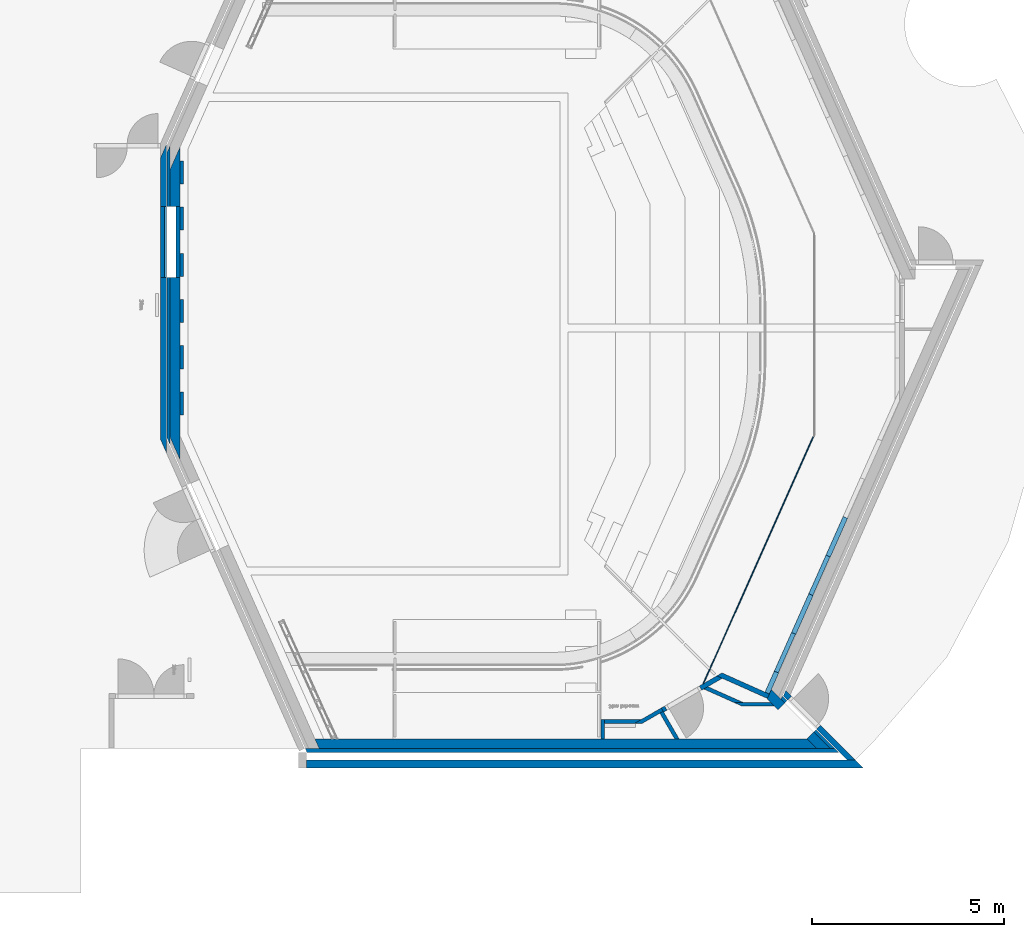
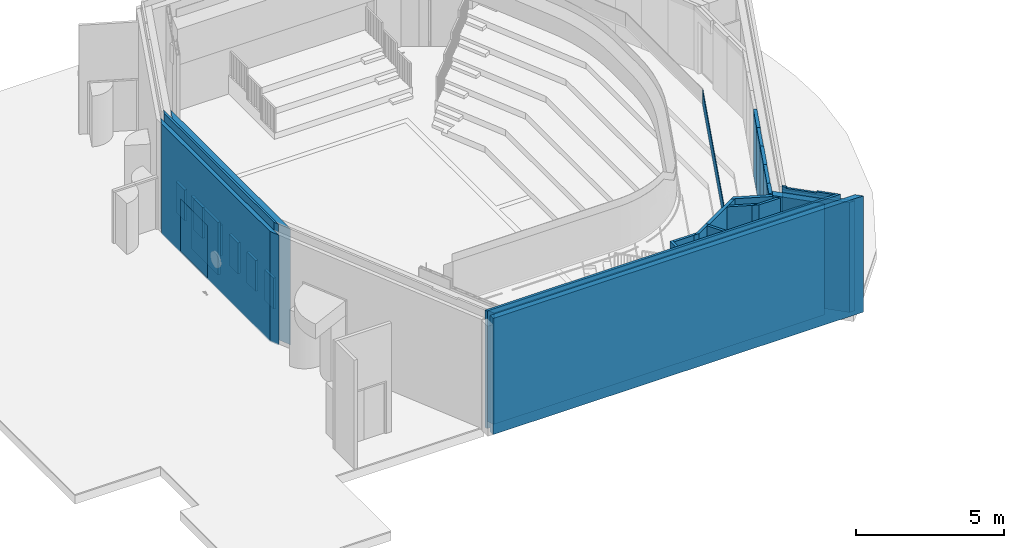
# One storey, part 8 of 19: 31 walls, 9 openings.
"""IFC2X3 building model written with IfcOpenShell, lengths in millimetres."""

from ifc_helpers import new_model, entity, si_unit, converted_unit, derived_unit, direction, frame, frame_2d, origin, place, context, subcontext, project, spatial, polyline, rectangle, outline, extrude, clip, halfspace, material, layer, layer_set, layer_usage, type_object, element, save


model = new_model("IFC2X3")

# Units and contexts
model_context = context("Model", 3, precision=0.01, world=origin(), true_north=direction((6.123031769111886e-17, 1.0)))
body_context = subcontext(model_context, "Body", "Model", "MODEL_VIEW")
ifc_project = project(units=[si_unit("LENGTHUNIT", "METRE", prefix="MILLI"), si_unit("AREAUNIT", "SQUARE_METRE"), si_unit("VOLUMEUNIT", "CUBIC_METRE"), converted_unit("PLANEANGLEUNIT", "DEGREE", entity("IfcRatioMeasure", 0.017453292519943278), si_unit("PLANEANGLEUNIT", "RADIAN"), dimensions=[0, 0, 0, 0, 0, 0, 0]), si_unit("MASSUNIT", "GRAM", prefix="KILO"), derived_unit("MASSDENSITYUNIT", [(si_unit("MASSUNIT", "GRAM", prefix="KILO"), 1), (si_unit("LENGTHUNIT", "METRE"), -3)]), derived_unit("MOMENTOFINERTIAUNIT", [(si_unit("LENGTHUNIT", "METRE"), 4)]), si_unit("TIMEUNIT", "SECOND"), si_unit("FREQUENCYUNIT", "HERTZ"), si_unit("THERMODYNAMICTEMPERATUREUNIT", "DEGREE_CELSIUS"), derived_unit("THERMALTRANSMITTANCEUNIT", [(si_unit("MASSUNIT", "GRAM", prefix="KILO"), 1), (si_unit("THERMODYNAMICTEMPERATUREUNIT", "KELVIN"), -1), (si_unit("TIMEUNIT", "SECOND"), -3)]), derived_unit("VOLUMETRICFLOWRATEUNIT", [(si_unit("LENGTHUNIT", "METRE"), 3), (si_unit("TIMEUNIT", "SECOND"), -1)]), derived_unit("MASSFLOWRATEUNIT", [(si_unit("MASSUNIT", "GRAM", prefix="KILO"), 1), (si_unit("TIMEUNIT", "SECOND"), -1)]), derived_unit("ROTATIONALFREQUENCYUNIT", [(si_unit("TIMEUNIT", "SECOND"), -1)]), si_unit("ELECTRICCURRENTUNIT", "AMPERE"), si_unit("ELECTRICVOLTAGEUNIT", "VOLT"), si_unit("POWERUNIT", "WATT"), si_unit("FORCEUNIT", "NEWTON", prefix="KILO"), si_unit("ILLUMINANCEUNIT", "LUX"), si_unit("LUMINOUSFLUXUNIT", "LUMEN"), si_unit("LUMINOUSINTENSITYUNIT", "CANDELA"), derived_unit("USERDEFINED", [(si_unit("MASSUNIT", "GRAM", prefix="KILO"), -1), (si_unit("LENGTHUNIT", "METRE"), -2), (si_unit("TIMEUNIT", "SECOND"), 3), (si_unit("LUMINOUSFLUXUNIT", "LUMEN"), 1)]), derived_unit("SOUNDPOWERUNIT", [(si_unit("MASSUNIT", "GRAM", prefix="KILO"), 1), (si_unit("LENGTHUNIT", "METRE"), 2), (si_unit("TIMEUNIT", "SECOND"), -3)]), derived_unit("SOUNDPRESSUREUNIT", [(si_unit("MASSUNIT", "GRAM", prefix="KILO"), 1), (si_unit("LENGTHUNIT", "METRE"), -1), (si_unit("TIMEUNIT", "SECOND"), -2)]), derived_unit("LINEARVELOCITYUNIT", [(si_unit("LENGTHUNIT", "METRE"), 1), (si_unit("TIMEUNIT", "SECOND"), -1)]), si_unit("PRESSUREUNIT", "PASCAL"), derived_unit("USERDEFINED", [(si_unit("LENGTHUNIT", "METRE"), -2), (si_unit("MASSUNIT", "GRAM", prefix="KILO"), 1), (si_unit("TIMEUNIT", "SECOND"), -2)]), derived_unit("LINEARFORCEUNIT", [(si_unit("MASSUNIT", "GRAM", prefix="KILO"), 1), (si_unit("LENGTHUNIT", "METRE"), 1), (si_unit("TIMEUNIT", "SECOND"), -2), (si_unit("LENGTHUNIT", "METRE"), -1)]), derived_unit("PLANARFORCEUNIT", [(si_unit("MASSUNIT", "GRAM", prefix="KILO"), 1), (si_unit("LENGTHUNIT", "METRE"), 1), (si_unit("TIMEUNIT", "SECOND"), -2), (si_unit("LENGTHUNIT", "METRE"), -2)])], contexts=[model_context])

# Site, building, storey
site_placement = place(None, frame((-10000.0, -10000.0, 0.0)))
site = spatial("IfcSite", under=ifc_project, at=site_placement, Name="Default", CompositionType="ELEMENT")
building_placement = place(site_placement, origin())
building = spatial("IfcBuilding", under=site, at=building_placement, CompositionType="ELEMENT")
storey_placement = place(building_placement, frame((0.0, 0.0, 4200.0)))
storey = spatial("IfcBuildingStorey", under=building, at=storey_placement, Name="01 1e verdieping", CompositionType="ELEMENT", Elevation=4200.000000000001)

# Wall, opening
ifc_material_1 = material(Name="NLRS_beton ihwg")
ifc_layer_1 = layer(ifc_material_1, 250.00000000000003)
ifc_layer_set_1 = layer_set([ifc_layer_1], Name="Basic Wall:NLRS_21_WA_beton 250mm_ags")
ifc_layer_usage_1 = layer_usage(ifc_layer_set_1, "AXIS2", "NEGATIVE", 125.00000000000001)
wall_type_1 = type_object("IfcWallType", Name="Basic Wall:NLRS_21_WA_beton 250mm_ags", PredefinedType="STANDARD", material=ifc_layer_set_1)
wall_1_placement = place(storey_placement, frame((25650.0, 43486.43397011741, -50.0), z_axis=(0.0, 0.0, 1.0), x_axis=(0.0, -1.0, 0.0)))
wall_1 = element("IfcWallStandardCase", 1, at=wall_1_placement, inside=storey, type_object=wall_type_1, material=ifc_layer_usage_1, Name="Basic Wall:NLRS_21_WA_beton 250mm_ags", ObjectType="Basic Wall:NLRS_21_WA_beton 250mm_ags", context=body_context, shape_type="SweptSolid", body=[
    extrude(outline(polyline([(561.5091934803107, -125.0), (7533.19161774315, -125.0), (8094.700811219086, 125.0), (7480.052477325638, 125.0), (0.0, 125.0), (561.5091934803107, -125.0)])), origin(), (0.0, 0.0, 1.0), 4800.0),
])
opening_1_placement = place(wall_1_placement, origin())
element("IfcOpeningElement", 2, at=opening_1_placement, cuts=wall_1, Name="Basic Wall:NLRS_21_WA_beton 250mm_ags", ObjectType="Opening", context=body_context, shape_type="SweptSolid", body=[
    extrude(rectangle(XDim=2220.0, YDim=1840.0000000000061, at=frame_2d((0.0, -4.320099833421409e-12), x_axis=(1.0, 0.0))), frame((2456.433970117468, -125.0, 1110.0), z_axis=(0.0, 1.0, 0.0), x_axis=(0.0, 0.0, -1.0)), (0.0, 0.0, 1.0), 250.0000000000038),
])

# Wall
ifc_layer_usage_2 = layer_usage(ifc_layer_set_1, "AXIS2", "NEGATIVE", 125.00000000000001)
wall_2_placement = place(storey_placement, frame((29284.01712027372, 28000.0, -50.0)))
element("IfcWallStandardCase", 3, at=wall_2_placement, inside=storey, type_object=wall_type_1, material=ifc_layer_usage_2, Name="Basic Wall:NLRS_21_WA_beton 250mm_ags", ObjectType="Basic Wall:NLRS_21_WA_beton 250mm_ags", context=body_context, shape_type="SweptSolid", body=[
    extrude(outline(polyline([(13032.486941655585, -125.0), (12782.486941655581, 125.0), (0.0, 125.0), (111.30717132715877, -125.0), (13032.486941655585, -125.0)])), origin(), (0.0, 0.0, 1.0), 4599.999999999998),
])

# Wall, opening
ifc_layer_usage_3 = layer_usage(ifc_layer_set_1, "AXIS2", "NEGATIVE", 125.00000000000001)
wall_3_placement = place(storey_placement, frame((41052.39703665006, 29315.883720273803, -50.0), z_axis=(0.0, 0.0, 1.0), x_axis=(0.7071067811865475, -0.7071067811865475, 0.0)))
wall_3 = element("IfcWallStandardCase", 4, at=wall_3_placement, inside=storey, type_object=wall_type_1, material=ifc_layer_usage_3, Name="Basic Wall:NLRS_21_WA_beton 250mm_ags", ObjectType="Basic Wall:NLRS_21_WA_beton 250mm_ags", context=body_context, shape_type="SweptSolid", body=[
    extrude(outline(polyline([(95.96600875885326, -125.0), (1559.1639088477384, -125.0), (1912.7172994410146, -125.0), (2162.7172994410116, 125.0), (267.78624840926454, 125.0), (0.0, 125.0), (95.96600875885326, -125.0)])), origin(), (0.0, 0.0, 1.0), 4599.999999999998),
])
opening_2_placement = place(wall_3_placement, origin())
element("IfcOpeningElement", 5, at=opening_2_placement, cuts=wall_3, Name="Basic Wall:NLRS_21_WA_beton 250mm_ags", ObjectType="Opening", context=body_context, shape_type="SweptSolid", body=[
    extrude(rectangle(XDim=2220.0, YDim=1065.000000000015, at=frame_2d((0.0, 3.0127011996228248e-12), x_axis=(1.0, 0.0))), frame((1026.6639088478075, -125.0, 1110.0), z_axis=(0.0, 1.0, 0.0), x_axis=(0.0, 0.0, -1.0)), (0.0, 0.0, 1.0), 249.99999999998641),
])

ifc_material_2 = material(Name="NLRS_kalkzandsteen")
ifc_layer_2 = layer(ifc_material_2, 150.0)
ifc_layer_set_2 = layer_set([ifc_layer_2], Name="Basic Wall:NLRS_22_WA_kalkzandsteen 150mm_ags")
ifc_layer_usage_4 = layer_usage(ifc_layer_set_2, "AXIS2", "NEGATIVE", 75.0)
wall_type_2 = type_object("IfcWallType", Name="Basic Wall:NLRS_22_WA_kalkzandsteen 150mm_ags", PredefinedType="STANDARD", material=ifc_layer_set_2)
wall_4_placement = place(storey_placement, frame((25350.0, 43560.82876670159, -50.0), z_axis=(0.0, 0.0, 1.0), x_axis=(0.0, -1.0, 0.0)))
wall_4 = element("IfcWallStandardCase", 6, at=wall_4_placement, inside=storey, type_object=wall_type_2, material=ifc_layer_usage_4, Name="Basic Wall:NLRS_22_WA_kalkzandsteen 150mm_ags", ObjectType="Basic Wall:NLRS_22_WA_kalkzandsteen 150mm_ags", context=body_context, shape_type="SweptSolid", body=[
    extrude(outline(polyline([(7660.725554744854, -75.0), (7997.631070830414, 75.0), (7628.84207049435, 75.0), (0.0, 75.0), (336.9055160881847, -75.0), (7660.725554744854, -75.0)])), origin(), (0.0, 0.0, 1.0), 4549.999999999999),
])
opening_3_placement = place(wall_4_placement, origin())
element("IfcOpeningElement", 7, at=opening_3_placement, cuts=wall_4, Name="Basic Wall:NLRS_22_WA_kalkzandsteen 150mm_ags", ObjectType="Opening", context=body_context, shape_type="SweptSolid", body=[
    extrude(rectangle(XDim=2170.0, YDim=1840.0000000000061, at=frame_2d((-2.2737367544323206e-13, -4.320099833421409e-12), x_axis=(1.0, 0.0))), frame((2530.8287667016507, -75.0, 1135.0), z_axis=(0.0, 1.0, 0.0), x_axis=(0.0, 0.0, -1.0)), (0.0, 0.0, 1.0), 150.00000000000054),
])

# Wall, openings
ifc_layer_usage_5 = layer_usage(ifc_layer_set_2, "AXIS2", "NEGATIVE", 75.0)
wall_5_placement = place(storey_placement, frame((41462.84778920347, 29329.69703643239, -50.0), z_axis=(0.0, 0.0, 1.0), x_axis=(0.7071067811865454, -0.7071067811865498, 0.0)))
wall_5 = element("IfcWallStandardCase", 8, at=wall_5_placement, inside=storey, type_object=wall_type_2, material=ifc_layer_usage_5, Name="Basic Wall:NLRS_22_WA_kalkzandsteen 150mm_ags", ObjectType="Basic Wall:NLRS_22_WA_kalkzandsteen 150mm_ags", context=body_context, shape_type="SweptSolid", body=[
    extrude(outline(polyline([(57.59976888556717, -75.0), (2406.516347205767, -75.0), (2556.516347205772, 75.0), (160.67897614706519, 75.0), (0.0, 75.0), (57.59976888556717, -75.0)])), origin(), (0.0, 0.0, 1.0), 4549.999999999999),
])
opening_4_placement = place(wall_5_placement, origin())
element("IfcOpeningElement", 9, at=opening_4_placement, cuts=wall_5, Name="Basic Wall:NLRS_22_WA_kalkzandsteen 150mm_ags", ObjectType="Opening", context=body_context, shape_type="SweptSolid", body=[
    extrude(rectangle(XDim=2220.0, YDim=1065.0000000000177, at=frame_2d((0.0, 4.604316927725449e-12), x_axis=(1.0, 0.0))), frame((746.1988879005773, -75.0, 1110.0), z_axis=(0.0, 1.0, 0.0), x_axis=(0.0, 0.0, -1.0)), (0.0, 0.0, 1.0), 150.00000000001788),
])
opening_5_placement = place(wall_5_placement, origin())
element("IfcOpeningElement", 10, at=opening_5_placement, cuts=wall_5, Name="Basic Wall:NLRS_22_WA_kalkzandsteen 150mm_ags", ObjectType="Opening", context=body_context, shape_type="SweptSolid", body=[
    extrude(rectangle(XDim=2220.0, YDim=1065.0000000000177, at=frame_2d((-1.1368683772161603e-12, 4.604316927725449e-12), x_axis=(1.0, 0.0))), frame((746.1988879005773, -75.0, 5910.0), z_axis=(0.0, 1.0, 0.0), x_axis=(0.0, 0.0, -1.0)), (0.0, 0.0, 1.0), 150.00000000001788),
])

# Walls
ifc_material_3 = material(Name="NLRS_metselwerk schoonwerk")
ifc_layer_3 = layer(ifc_material_3, 210.0)
ifc_layer_set_3 = layer_set([ifc_layer_3], Name="Basic Wall:NLRS_21_WA_metselwerk 210mm_ags")
ifc_layer_usage_6 = layer_usage(ifc_layer_set_3, "AXIS2", "NEGATIVE", 105.0)
wall_type_3 = type_object("IfcWallType", Name="Basic Wall:NLRS_21_WA_metselwerk 210mm_ags", PredefinedType="STANDARD", material=ifc_layer_set_3)
wall_6_placement = place(storey_placement, frame((29068.08237584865, 27470.0, -50.0)))
element("IfcWallStandardCase", 11, at=wall_6_placement, inside=storey, type_object=wall_type_3, material=ifc_layer_usage_6, Name="Basic Wall:NLRS_21_WA_metselwerk 210mm_ags", ObjectType="Basic Wall:NLRS_21_WA_metselwerk 210mm_ags", context=body_context, shape_type="SweptSolid", body=[
    extrude(outline(polyline([(14465.52846726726, -105.0), (14255.528467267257, 105.0), (14043.396432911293, 105.0), (0.0, 105.0), (0.0, -105.0), (14465.52846726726, -105.0)])), origin(), (0.0, 0.0, 1.0), 4800.0),
])
ifc_material_4 = material(Name="NLRS_MDF")
ifc_layer_4 = layer(ifc_material_4, 12.5)
ifc_material_5 = material(Name="NLRS_gipsplaat")
ifc_layer_5 = layer(ifc_material_5, 12.5)
ifc_material_6 = material(Name="NLRS_aluminium C-profielen met isolatie")
ifc_layer_6 = layer(ifc_material_6, 75.0)
ifc_layer_7 = layer(ifc_material_5, 12.5)
ifc_layer_8 = layer(ifc_material_5, 12.5)
ifc_layer_set_4 = layer_set([ifc_layer_4, ifc_layer_5, ifc_layer_6, ifc_layer_7, ifc_layer_8], Name="Basic Wall:NLRS_22_WA_ms-wand mdf gips iso gips gips 125mm 25-75-25_ags")
ifc_layer_usage_7 = layer_usage(ifc_layer_set_4, "AXIS2", "POSITIVE", -62.50000000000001)
wall_type_4 = type_object("IfcWallType", Name="Basic Wall:NLRS_22_WA_ms-wand mdf gips iso gips gips 125mm 25-75-25_ags", PredefinedType="STANDARD", material=ifc_layer_set_4)
wall_7_placement = place(storey_placement, frame((41064.45000275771, 29232.81999383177, 0.0), z_axis=(0.0, 0.0, 1.0), x_axis=(-0.9135931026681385, 0.406629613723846, 0.0)))
element("IfcWallStandardCase", 12, at=wall_7_placement, inside=storey, type_object=wall_type_4, material=ifc_layer_usage_7, Name="Basic Wall:NLRS_22_WA_ms-wand mdf gips iso gips gips 125mm 25-75-25_ags", ObjectType="Basic Wall:NLRS_22_WA_ms-wand mdf gips iso gips gips 125mm 25-75-25_ags", context=body_context, shape_type="SweptSolid", body=[
    extrude(outline(polyline([(1348.0282435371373, -62.499999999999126), (1438.8684360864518, 62.50000000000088), (1284.346785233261, 62.50000000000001), (0.0, 62.50000000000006), (0.0, -62.50000000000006), (1348.0282435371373, -62.499999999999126)])), origin(), (0.0, 0.0, 1.0), 4499.999999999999),
])

# Wall, opening
ifc_layer_usage_8 = layer_usage(ifc_layer_set_4, "AXIS2", "POSITIVE", -62.50000000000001)
wall_8_placement = place(storey_placement, frame((39834.41528747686, 29752.100449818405, 0.0), z_axis=(0.0, 0.0, 1.0), x_axis=(-0.8660254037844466, -0.49999999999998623, 0.0)))
wall_8 = element("IfcWallStandardCase", 13, at=wall_8_placement, inside=storey, type_object=wall_type_4, material=ifc_layer_usage_8, Name="Basic Wall:NLRS_22_WA_ms-wand mdf gips iso gips gips 125mm 25-75-25_ags", ObjectType="Basic Wall:NLRS_22_WA_ms-wand mdf gips iso gips gips 125mm 25-75-25_ags", context=body_context, shape_type="SweptSolid", body=[
    extrude(outline(polyline([(90.84019254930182, -62.49999999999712), (1755.9171632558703, -62.499999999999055), (1755.9171632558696, 62.50000000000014), (556.2779430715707, 62.499999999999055), (432.6606223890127, 62.499999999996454), (0.0, 62.49999999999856), (90.84019254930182, -62.49999999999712)])), origin(), (0.0, 0.0, 1.0), 4499.999999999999),
])
opening_6_placement = place(wall_8_placement, origin())
element("IfcOpeningElement", 14, at=opening_6_placement, cuts=wall_8, Name="Basic Wall:NLRS_22_WA_ms-wand mdf gips iso gips gips 125mm 25-75-25_ags", ObjectType="Opening", context=body_context, shape_type="SweptSolid", body=[
    extrude(rectangle(XDim=2170.0, YDim=1040.0000000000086, at=frame_2d((-2.8990143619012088e-12, 2.2737367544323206e-13), x_axis=(0.0, 1.0))), frame((1135.917163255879, -214.89999999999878, 1085.0), z_axis=(0.0, 1.0, 0.0), x_axis=(-1.0, 0.0, 0.0)), (0.0, 0.0, 1.0), 429.8000000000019),
])

# Walls
ifc_layer_9 = layer(ifc_material_4, 12.5)
ifc_layer_10 = layer(ifc_material_5, 12.5)
ifc_layer_11 = layer(ifc_material_6, 75.0)
ifc_layer_set_5 = layer_set([ifc_layer_9, ifc_layer_10, ifc_layer_11], Name="Basic Wall:NLRS_22_WA_ms-wand mdf gips iso 100mm 25-75_ags")
ifc_layer_usage_9 = layer_usage(ifc_layer_set_5, "AXIS2", "NEGATIVE", 50.0)
wall_type_5 = type_object("IfcWallType", Name="Basic Wall:NLRS_22_WA_ms-wand mdf gips iso 100mm 25-75_ags", PredefinedType="STANDARD", material=ifc_layer_set_5)
wall_9_placement = place(storey_placement, frame((37609.01496135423, 28481.69872920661, 0.0), z_axis=(0.0, 0.0, 1.0), x_axis=(0.8660254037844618, 0.49999999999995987, 0.0)))
element("IfcWallStandardCase", 15, at=wall_9_placement, inside=storey, type_object=wall_type_5, material=ifc_layer_usage_9, Name="Basic Wall:NLRS_22_WA_ms-wand mdf gips iso 100mm 25-75_ags", ObjectType="Basic Wall:NLRS_22_WA_ms-wand mdf gips iso 100mm 25-75_ags", context=body_context, shape_type="SweptSolid", body=[
    extrude(outline(polyline([(806.536913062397, -50.0), (806.5369130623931, 50.0), (200.0, 50.0), (0.0, 50.0), (173.20508075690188, -50.0), (706.5369130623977, -50.0), (806.536913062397, -50.0)])), origin(), (0.0, 0.0, 1.0), 4499.999999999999),
])
ifc_layer_usage_10 = layer_usage(ifc_layer_set_5, "AXIS2", "POSITIVE", -50.0)
wall_10_placement = place(storey_placement, frame((36760.0, 28625.0, 0.0), z_axis=(0.0, 0.0, 1.0), x_axis=(0.0, -1.0, 0.0)))
element("IfcWallStandardCase", 16, at=wall_10_placement, inside=storey, type_object=wall_type_5, material=ifc_layer_usage_10, Name="Basic Wall:NLRS_22_WA_ms-wand mdf gips iso 100mm 25-75_ags", ObjectType="Basic Wall:NLRS_22_WA_ms-wand mdf gips iso 100mm 25-75_ags", context=body_context, shape_type="SweptSolid", body=[
    extrude(rectangle(XDim=500.00000000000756, YDim=99.99999999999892, at=frame_2d((250.00000000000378, 1.1723955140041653e-12), x_axis=(-1.0, 0.0))), origin(), (0.0, 0.0, 1.0), 4499.999999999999),
])
ifc_layer_usage_11 = layer_usage(ifc_layer_set_5, "AXIS2", "POSITIVE", -50.0)
wall_11_placement = place(storey_placement, frame((37757.220042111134, 28575.0, 0.0), z_axis=(0.0, 0.0, 1.0), x_axis=(-1.0, 0.0, 0.0)))
element("IfcWallStandardCase", 17, at=wall_11_placement, inside=storey, type_object=wall_type_5, material=ifc_layer_usage_11, Name="Basic Wall:NLRS_22_WA_ms-wand mdf gips iso 100mm 25-75_ags", ObjectType="Basic Wall:NLRS_22_WA_ms-wand mdf gips iso 100mm 25-75_ags", context=body_context, shape_type="SweptSolid", body=[
    extrude(outline(polyline([(947.2200421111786, -50.0), (947.220042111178, 50.0), (173.205080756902, 50.0), (0.0, -50.0), (947.2200421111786, -50.0)])), origin(), (0.0, 0.0, 1.0), 4499.999999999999),
])
ifc_layer_12 = layer(ifc_material_5, 12.5)
ifc_layer_13 = layer(ifc_material_5, 12.5)
ifc_layer_14 = layer(ifc_material_6, 75.0)
ifc_layer_set_6 = layer_set([ifc_layer_12, ifc_layer_13, ifc_layer_14], Name="Basic Wall:NLRS_22_WA_ms-wand gips iso 100mm 25-75_ags")
ifc_layer_usage_12 = layer_usage(ifc_layer_set_6, "AXIS2", "POSITIVE", -50.0)
wall_type_6 = type_object("IfcWallType", Name="Basic Wall:NLRS_22_WA_ms-wand gips iso 100mm 25-75_ags", PredefinedType="STANDARD", material=ifc_layer_set_6)
wall_12_placement = place(storey_placement, frame((38702.9624064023, 28100.0, 0.0), z_axis=(0.0, 0.0, 1.0), x_axis=(-0.499999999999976, 0.8660254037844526, 0.0)))
element("IfcWallStandardCase", 18, at=wall_12_placement, inside=storey, type_object=wall_type_6, material=ifc_layer_usage_12, Name="Basic Wall:NLRS_22_WA_ms-wand gips iso 100mm 25-75_ags", ObjectType="Basic Wall:NLRS_22_WA_ms-wand gips iso 100mm 25-75_ags", context=body_context, shape_type="SweptSolid", body=[
    extrude(outline(polyline([(827.5345188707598, -50.0), (827.5345188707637, 50.0), (57.73502691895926, 50.0), (0.0, -50.0), (827.5345188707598, -50.0)])), origin(), (0.0, 0.0, 1.0), 4499.999999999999),
])
ifc_layer_usage_13 = layer_usage(ifc_layer_set_6, "AXIS2", "NEGATIVE", 50.0)
wall_13_placement = place(storey_placement, frame((25725.0, 41950.0, 0.0), z_axis=(0.0, 0.0, 1.0), x_axis=(0.0, -1.0, 0.0)))
element("IfcWallStandardCase", 19, at=wall_13_placement, inside=storey, type_object=wall_type_6, material=ifc_layer_usage_13, Name="Basic Wall:NLRS_22_WA_ms-wand gips iso 100mm 25-75_ags", ObjectType="Basic Wall:NLRS_22_WA_ms-wand gips iso 100mm 25-75_ags", context=body_context, shape_type="SweptSolid", body=[
    extrude(rectangle(XDim=1840.0000000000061, YDim=99.99999999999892, at=frame_2d((920.0000000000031, 2.1671553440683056e-12), x_axis=(-1.0, 0.0))), origin(), (0.0, 0.0, 1.0), 2170.0000000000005),
])
ifc_layer_usage_14 = layer_usage(ifc_layer_set_6, "AXIS2", "POSITIVE", -50.0)
wall_14_placement = place(storey_placement, frame((25325.0, 41950.0, 0.0), z_axis=(0.0, 0.0, 1.0), x_axis=(0.0, -1.0, 0.0)))
element("IfcWallStandardCase", 20, at=wall_14_placement, inside=storey, type_object=wall_type_6, material=ifc_layer_usage_14, Name="Basic Wall:NLRS_22_WA_ms-wand gips iso 100mm 25-75_ags", ObjectType="Basic Wall:NLRS_22_WA_ms-wand gips iso 100mm 25-75_ags", context=body_context, shape_type="SweptSolid", body=[
    extrude(rectangle(XDim=1840.000000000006, YDim=99.99999999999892, at=frame_2d((920.000000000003, 2.1671553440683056e-12), x_axis=(-1.0, 0.0))), origin(), (0.0, 0.0, 1.0), 2170.0000000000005),
])
ifc_layer_usage_15 = layer_usage(ifc_layer_set_6, "AXIS2", "POSITIVE", -50.0)
wall_15_placement = place(storey_placement, frame((39404.245937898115, 29465.514545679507, 0.0), z_axis=(0.0, 0.0, 1.0), x_axis=(0.9135931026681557, -0.4066296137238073, 0.0)))
element("IfcWallStandardCase", 21, at=wall_15_placement, inside=storey, type_object=wall_type_6, material=ifc_layer_usage_15, Name="Basic Wall:NLRS_22_WA_ms-wand gips iso 100mm 25-75_ags", ObjectType="Basic Wall:NLRS_22_WA_ms-wand gips iso 100mm 25-75_ags", context=body_context, shape_type="SweptSolid", body=[
    extrude(outline(polyline([(848.0319170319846, -50.0), (1072.706429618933, 50.0), (72.67215403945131, 50.0), (0.0, -50.0), (848.0319170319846, -50.0)])), origin(), (0.0, 0.0, 1.0), 4499.999999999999),
])
ifc_layer_usage_16 = layer_usage(ifc_layer_set_6, "AXIS2", "NEGATIVE", 50.0)
wall_16_placement = place(storey_placement, frame((41216.5040619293, 29025.0, 0.0), z_axis=(0.0, 0.0, 1.0), x_axis=(-1.0, 0.0, 0.0)))
element("IfcWallStandardCase", 22, at=wall_16_placement, inside=storey, type_object=wall_type_6, material=ifc_layer_usage_16, Name="Basic Wall:NLRS_22_WA_ms-wand gips iso 100mm 25-75_ags", ObjectType="Basic Wall:NLRS_22_WA_ms-wand gips iso 100mm 25-75_ags", context=body_context, shape_type="SweptSolid", body=[
    extrude(outline(polyline([(1057.8334944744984, -50.0), (833.1589818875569, 50.0), (0.0, 50.0), (100.0, -50.0), (811.9094480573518, -50.0), (1057.8334944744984, -50.0)])), origin(), (0.0, 0.0, 1.0), 4499.999999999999),
])
ifc_material_7 = material(Name="NLRS_isolatie")
ifc_layer_15 = layer(ifc_material_7, 100.0)
ifc_layer_set_7 = layer_set([ifc_layer_15], Name="Basic Wall:NLRS_21_WA_isolatie 100mm_ags")
ifc_layer_usage_17 = layer_usage(ifc_layer_set_7, "AXIS2", "NEGATIVE", 50.0)
wall_type_7 = type_object("IfcWallType", Name="Basic Wall:NLRS_21_WA_isolatie 100mm_ags", PredefinedType="STANDARD", material=ifc_layer_set_7)
wall_17_placement = place(storey_placement, frame((29034.094319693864, 27825.0, -50.0)))
element("IfcWallStandardCase", 23, at=wall_17_placement, inside=storey, type_object=wall_type_7, material=ifc_layer_usage_17, Name="Basic Wall:NLRS_21_WA_isolatie 100mm_ags", ObjectType="Basic Wall:NLRS_21_WA_isolatie 100mm_ags", context=body_context, shape_type="Clipping", body=[
    clip(extrude(outline(polyline([(13849.100217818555, -50.0), (13749.10021781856, 50.0), (13635.963132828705, 50.0), (87.5709022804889, 50.0), (0.0, 50.0), (44.52286853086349, -50.0), (13849.100217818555, -50.0)])), origin(), (0.0, 0.0, 1.0), 4850.0), halfspace(frame((0.0, 0.0, -50.0)), True)),
])

# Wall, opening
ifc_layer_16 = layer(ifc_material_7, 80.0)
ifc_layer_set_8 = layer_set([ifc_layer_16], Name="Basic Wall:NLRS_21_WA_isolatie 80mm_ags")
ifc_layer_usage_18 = layer_usage(ifc_layer_set_8, "AXIS2", "NEGATIVE", 40.0)
wall_type_8 = type_object("IfcWallType", Name="Basic Wall:NLRS_21_WA_isolatie 80mm_ags", PredefinedType="STANDARD", material=ifc_layer_set_8)
wall_18_placement = place(storey_placement, frame((25485.0, 35756.55488552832, -50.0), z_axis=(0.0, 0.0, 1.0), x_axis=(0.0, 1.0, 0.0)))
wall_18 = element("IfcWallStandardCase", 24, at=wall_18_placement, inside=storey, type_object=wall_type_8, material=ifc_layer_usage_18, Name="Basic Wall:NLRS_21_WA_isolatie 80mm_ags", ObjectType="Basic Wall:NLRS_21_WA_isolatie 80mm_ags", context=body_context, shape_type="Clipping", body=[
    clip(extrude(outline(polyline([(0.0, -40.0), (196.687466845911, -40.0), (7783.018225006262, -40.0), (7603.335283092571, 40.0), (179.68294191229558, 40.0), (0.0, -40.0)])), origin(), (0.0, 0.0, 1.0), 4850.0), halfspace(frame((0.0, 0.0, -50.0)), True)),
])
opening_7_placement = place(wall_18_placement, origin())
element("IfcOpeningElement", 25, at=opening_7_placement, cuts=wall_18, Name="Basic Wall:NLRS_21_WA_isolatie 80mm_ags", ObjectType="Opening", context=body_context, shape_type="SweptSolid", body=[
    extrude(rectangle(XDim=2220.0, YDim=1840.0000000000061, at=frame_2d((0.0, -4.320099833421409e-12), x_axis=(1.0, 0.0))), frame((5273.44511447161, -40.0, 1110.0), z_axis=(0.0, 1.0, 0.0), x_axis=(0.0, 0.0, -1.0)), (0.0, 0.0, 1.0), 79.99999999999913),
])

# Wall, openings
ifc_layer_usage_19 = layer_usage(ifc_layer_set_8, "AXIS2", "NEGATIVE", 40.0)
wall_19_placement = place(storey_placement, frame((41397.30160981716, 29204.324384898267, -50.0), z_axis=(0.0, 0.0, 1.0), x_axis=(0.7071067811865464, -0.7071067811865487, 0.0)))
wall_19 = element("IfcWallStandardCase", 26, at=wall_19_placement, inside=storey, type_object=wall_type_8, material=ifc_layer_usage_19, Name="Basic Wall:NLRS_21_WA_isolatie 80mm_ags", ObjectType="Basic Wall:NLRS_21_WA_isolatie 80mm_ags", context=body_context, shape_type="Clipping", body=[
    clip(extrude(outline(polyline([(30.709122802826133, -40.0), (1839.9485743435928, -40.0), (1919.9485743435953, 40.0), (0.0, 40.0), (30.709122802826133, -40.0)])), origin(), (0.0, 0.0, 1.0), 4850.0), halfspace(frame((0.0, 0.0, -50.0)), True)),
])
opening_8_placement = place(wall_19_placement, origin())
element("IfcOpeningElement", 27, at=opening_8_placement, cuts=wall_19, Name="Basic Wall:NLRS_21_WA_isolatie 80mm_ags", ObjectType="Opening", context=body_context, shape_type="SweptSolid", body=[
    extrude(rectangle(XDim=2220.0, YDim=1065.0000000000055, at=frame_2d((0.0, -1.5347723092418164e-12), x_axis=(1.0, 0.0))), frame((703.895183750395, -40.0, 1110.0), z_axis=(0.0, 1.0, 0.0), x_axis=(0.0, 0.0, -1.0)), (0.0, 0.0, 1.0), 79.99999999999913),
])
opening_9_placement = place(wall_19_placement, origin())
element("IfcOpeningElement", 28, at=opening_9_placement, cuts=wall_19, Name="Basic Wall:NLRS_21_WA_isolatie 80mm_ags", ObjectType="Opening", context=body_context, shape_type="SweptSolid", body=[
    extrude(rectangle(XDim=2220.0, YDim=1065.0000000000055, at=frame_2d((-1.1368683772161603e-12, -1.5347723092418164e-12), x_axis=(1.0, 0.0))), frame((703.895183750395, -40.0, 5910.0), z_axis=(0.0, 1.0, 0.0), x_axis=(0.0, 0.0, -1.0)), (0.0, 0.0, 1.0), 79.99999999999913),
])

# Walls
ifc_layer_17 = layer(ifc_material_4, 12.5)
ifc_layer_18 = layer(ifc_material_5, 12.5)
ifc_layer_19 = layer(ifc_material_6, 100.0)
ifc_layer_set_9 = layer_set([ifc_layer_17, ifc_layer_18, ifc_layer_19], Name="Basic Wall:NLRS_22_WA_ms-wand mdf gips iso 125mm 25-100_ags")
ifc_layer_usage_20 = layer_usage(ifc_layer_set_9, "AXIS2", "NEGATIVE", 62.50000000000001)
wall_type_9 = type_object("IfcWallType", Name="Basic Wall:NLRS_22_WA_ms-wand mdf gips iso 125mm 25-100_ags", PredefinedType="STANDARD", material=ifc_layer_set_9)
wall_20_placement = place(storey_placement, frame((41032.76624578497, 29315.319194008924, 1845.0), z_axis=(0.0, 0.0, 1.0), x_axis=(0.4067366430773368, 0.9135454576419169, 0.0)))
element("IfcWallStandardCase", 29, at=wall_20_placement, inside=storey, type_object=wall_type_9, material=ifc_layer_usage_20, Name="Basic Wall:NLRS_22_WA_ms-wand mdf gips iso 125mm 25-100_ags", ObjectType="Basic Wall:NLRS_22_WA_ms-wand mdf gips iso 125mm 25-100_ags", context=body_context, shape_type="SweptSolid", body=[
    extrude(rectangle(XDim=596.1060989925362, YDim=124.99999999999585, at=frame_2d((298.0530494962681, -1.3322676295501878e-12), x_axis=(-1.0, 0.0))), origin(), (0.0, 0.0, 1.0), 2704.999999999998),
])
ifc_layer_usage_21 = layer_usage(ifc_layer_set_9, "AXIS2", "NEGATIVE", 62.50000000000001)
wall_21_placement = place(storey_placement, frame((41722.634746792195, 30864.789216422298, 1845.0), z_axis=(0.0, 0.0, 1.0), x_axis=(0.4067366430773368, 0.9135454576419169, 0.0)))
element("IfcWallStandardCase", 30, at=wall_21_placement, inside=storey, type_object=wall_type_9, material=ifc_layer_usage_21, Name="Basic Wall:NLRS_22_WA_ms-wand mdf gips iso 125mm 25-100_ags", ObjectType="Basic Wall:NLRS_22_WA_ms-wand mdf gips iso 125mm 25-100_ags", context=body_context, shape_type="SweptSolid", body=[
    extrude(rectangle(XDim=1099.9999999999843, YDim=124.99999999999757, at=frame_2d((549.9999999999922, 7.815970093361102e-13), x_axis=(-1.0, 0.0))), origin(), (0.0, 0.0, 1.0), 2704.999999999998),
])
ifc_layer_usage_22 = layer_usage(ifc_layer_set_9, "AXIS2", "NEGATIVE", 62.50000000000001)
wall_22_placement = place(storey_placement, frame((42617.45536156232, 32874.58922323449, 1845.0), z_axis=(0.0, 0.0, 1.0), x_axis=(0.4067366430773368, 0.9135454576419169, 0.0)))
element("IfcWallStandardCase", 31, at=wall_22_placement, inside=storey, type_object=wall_type_9, material=ifc_layer_usage_22, Name="Basic Wall:NLRS_22_WA_ms-wand mdf gips iso 125mm 25-100_ags", ObjectType="Basic Wall:NLRS_22_WA_ms-wand mdf gips iso 125mm 25-100_ags", context=body_context, shape_type="SweptSolid", body=[
    extrude(rectangle(XDim=1099.9999999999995, YDim=124.99999999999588, at=frame_2d((549.9999999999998, -5.400124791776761e-13), x_axis=(-1.0, 0.0))), origin(), (0.0, 0.0, 1.0), 2704.999999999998),
])
ifc_material_8 = material(Name="NLRS_hout")
ifc_layer_20 = layer(ifc_material_8, 39.0)
ifc_material_9 = material(Name="NLRS_vilt")
ifc_layer_21 = layer(ifc_material_9, 1.0)
ifc_layer_22 = layer(ifc_material_6, 75.0)
ifc_layer_set_10 = layer_set([ifc_layer_20, ifc_layer_21, ifc_layer_22], Name="Basic Wall:NLRS_22_WA_akoestische voorzetwand 115mm 39-1-75_ags")
ifc_layer_usage_23 = layer_usage(ifc_layer_set_10, "AXIS2", "NEGATIVE", 57.50000000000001)
wall_type_10 = type_object("IfcWallType", Name="Basic Wall:NLRS_22_WA_akoestische voorzetwand 115mm 39-1-75_ags", PredefinedType="STANDARD", material=ifc_layer_set_10)
wall_23_placement = place(storey_placement, frame((41270.656712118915, 29861.92289623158, 1845.0), z_axis=(0.0, 0.0, 1.0), x_axis=(0.4067366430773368, 0.9135454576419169, 0.0)))
element("IfcWallStandardCase", 32, at=wall_23_placement, inside=storey, type_object=wall_type_10, material=ifc_layer_usage_23, Name="Basic Wall:NLRS_22_WA_akoestische voorzetwand 115mm 39-1-75_ags", ObjectType="Basic Wall:NLRS_22_WA_akoestische voorzetwand 115mm 39-1-75_ags", context=body_context, shape_type="SweptSolid", body=[
    extrude(rectangle(XDim=1099.9999999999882, YDim=114.99999999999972, at=frame_2d((549.9999999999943, 6.497913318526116e-12), x_axis=(-1.0, 0.0))), origin(), (0.0, 0.0, 1.0), 2704.999999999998),
])
ifc_layer_usage_24 = layer_usage(ifc_layer_set_10, "AXIS2", "NEGATIVE", 57.50000000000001)
wall_24_placement = place(storey_placement, frame((42165.47732688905, 31871.72290304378, 1845.0), z_axis=(0.0, 0.0, 1.0), x_axis=(0.4067366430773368, 0.9135454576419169, 0.0)))
element("IfcWallStandardCase", 33, at=wall_24_placement, inside=storey, type_object=wall_type_10, material=ifc_layer_usage_24, Name="Basic Wall:NLRS_22_WA_akoestische voorzetwand 115mm 39-1-75_ags", ObjectType="Basic Wall:NLRS_22_WA_akoestische voorzetwand 115mm 39-1-75_ags", context=body_context, shape_type="SweptSolid", body=[
    extrude(rectangle(XDim=1099.9999999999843, YDim=114.99999999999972, at=frame_2d((549.9999999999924, 5.616840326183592e-12), x_axis=(-1.0, 0.0))), origin(), (0.0, 0.0, 1.0), 2704.999999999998),
])
ifc_material_10 = material(Name="20_APX_ontwerpmateriaal grijs")
ifc_layer_23 = layer(ifc_material_10, 100.0)
ifc_layer_set_11 = layer_set([ifc_layer_23], Name="Basic Wall:NLRS_22_WA_akoestisch wandelement 100mm_ags")
ifc_layer_usage_25 = layer_usage(ifc_layer_set_11, "AXIS2", "NEGATIVE", 50.0)
wall_type_11 = type_object("IfcWallType", Name="Basic Wall:NLRS_22_WA_akoestisch wandelement 100mm_ags", PredefinedType="STANDARD", material=ifc_layer_set_11)
wall_25_placement = place(storey_placement, frame((25825.0, 38338.49999969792, 725.0), z_axis=(0.0, 0.0, 1.0), x_axis=(0.0, -1.0, 0.0)))
element("IfcWallStandardCase", 34, at=wall_25_placement, inside=storey, type_object=wall_type_11, material=ifc_layer_usage_25, Name="Basic Wall:NLRS_22_WA_akoestisch wandelement 100mm_ags", ObjectType="Basic Wall:NLRS_22_WA_akoestisch wandelement 100mm_ags", context=body_context, shape_type="SweptSolid", body=[
    extrude(rectangle(XDim=599.9999999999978, YDim=99.99999999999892, at=frame_2d((299.9999999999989, 2.1671553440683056e-12), x_axis=(-1.0, 0.0))), origin(), (0.0, 0.0, 1.0), 1275.0000000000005),
])
ifc_layer_usage_26 = layer_usage(ifc_layer_set_11, "AXIS2", "NEGATIVE", 50.0)
wall_26_placement = place(storey_placement, frame((25825.0, 39538.49999969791, 725.0), z_axis=(0.0, 0.0, 1.0), x_axis=(0.0, -1.0, 0.0)))
element("IfcWallStandardCase", 35, at=wall_26_placement, inside=storey, type_object=wall_type_11, material=ifc_layer_usage_26, Name="Basic Wall:NLRS_22_WA_akoestisch wandelement 100mm_ags", ObjectType="Basic Wall:NLRS_22_WA_akoestisch wandelement 100mm_ags", context=body_context, shape_type="SweptSolid", body=[
    extrude(rectangle(XDim=599.9999999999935, YDim=99.99999999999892, at=frame_2d((299.99999999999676, 2.1671553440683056e-12), x_axis=(-1.0, 0.0))), origin(), (0.0, 0.0, 1.0), 1275.0000000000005),
])
ifc_layer_usage_27 = layer_usage(ifc_layer_set_11, "AXIS2", "NEGATIVE", 50.0)
wall_27_placement = place(storey_placement, frame((25825.0, 40738.49999969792, 725.0), z_axis=(0.0, 0.0, 1.0), x_axis=(0.0, -1.0, 0.0)))
element("IfcWallStandardCase", 36, at=wall_27_placement, inside=storey, type_object=wall_type_11, material=ifc_layer_usage_27, Name="Basic Wall:NLRS_22_WA_akoestisch wandelement 100mm_ags", ObjectType="Basic Wall:NLRS_22_WA_akoestisch wandelement 100mm_ags", context=body_context, shape_type="SweptSolid", body=[
    extrude(rectangle(XDim=599.9999999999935, YDim=99.99999999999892, at=frame_2d((299.99999999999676, 2.1671553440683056e-12), x_axis=(-1.0, 0.0))), origin(), (0.0, 0.0, 1.0), 1275.0000000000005),
])
ifc_layer_usage_28 = layer_usage(ifc_layer_set_11, "AXIS2", "NEGATIVE", 50.0)
wall_28_placement = place(storey_placement, frame((25825.0, 41938.49999969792, 725.0), z_axis=(0.0, 0.0, 1.0), x_axis=(0.0, -1.0, 0.0)))
element("IfcWallStandardCase", 37, at=wall_28_placement, inside=storey, type_object=wall_type_11, material=ifc_layer_usage_28, Name="Basic Wall:NLRS_22_WA_akoestisch wandelement 100mm_ags", ObjectType="Basic Wall:NLRS_22_WA_akoestisch wandelement 100mm_ags", context=body_context, shape_type="SweptSolid", body=[
    extrude(rectangle(XDim=599.9999999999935, YDim=99.99999999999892, at=frame_2d((299.99999999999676, 2.1671553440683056e-12), x_axis=(-1.0, 0.0))), origin(), (0.0, 0.0, 1.0), 1275.0000000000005),
])
ifc_layer_usage_29 = layer_usage(ifc_layer_set_11, "AXIS2", "NEGATIVE", 50.0)
wall_29_placement = place(storey_placement, frame((25825.0, 43138.499999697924, 725.0), z_axis=(0.0, 0.0, 1.0), x_axis=(0.0, -1.0, 0.0)))
element("IfcWallStandardCase", 38, at=wall_29_placement, inside=storey, type_object=wall_type_11, material=ifc_layer_usage_29, Name="Basic Wall:NLRS_22_WA_akoestisch wandelement 100mm_ags", ObjectType="Basic Wall:NLRS_22_WA_akoestisch wandelement 100mm_ags", context=body_context, shape_type="SweptSolid", body=[
    extrude(rectangle(XDim=599.9999999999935, YDim=99.99999999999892, at=frame_2d((299.99999999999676, 2.1671553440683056e-12), x_axis=(-1.0, 0.0))), origin(), (0.0, 0.0, 1.0), 1275.0000000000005),
])
ifc_layer_usage_30 = layer_usage(ifc_layer_set_11, "AXIS2", "NEGATIVE", 50.0)
wall_30_placement = place(storey_placement, frame((25825.0, 37138.49999969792, 725.0), z_axis=(0.0, 0.0, 1.0), x_axis=(0.0, -1.0, 0.0)))
element("IfcWallStandardCase", 39, at=wall_30_placement, inside=storey, type_object=wall_type_11, material=ifc_layer_usage_30, Name="Basic Wall:NLRS_22_WA_akoestisch wandelement 100mm_ags", ObjectType="Basic Wall:NLRS_22_WA_akoestisch wandelement 100mm_ags", context=body_context, shape_type="SweptSolid", body=[
    extrude(rectangle(XDim=99.99999999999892, YDim=600.0000000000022, at=frame_2d((-2.1671553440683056e-12, 0.0), x_axis=(1.0, 0.0))), frame((300.0, 0.0, 0.0), z_axis=(0.0, 0.0, 1.0), x_axis=(0.0, 1.0, 0.0)), (0.0, 0.0, 1.0), 1274.9999999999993),
])
ifc_material_11 = material(Name="36_APX_multiplex")
ifc_layer_24 = layer(ifc_material_11, 25.0)
ifc_layer_set_12 = layer_set([ifc_layer_24], Name="Basic Wall:NLRS_42_WA_multiplex 25mm_ags")
ifc_layer_usage_31 = layer_usage(ifc_layer_set_12, "AXIS2", "NEGATIVE", 12.5)
wall_type_12 = type_object("IfcWallType", Name="Basic Wall:NLRS_42_WA_multiplex 25mm_ags", PredefinedType="STANDARD", material=ifc_layer_set_12)
wall_31_placement = place(storey_placement, frame((42261.418530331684, 36039.91260029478, 3725.0), z_axis=(0.0, 0.0, 1.0), x_axis=(-0.40673664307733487, -0.9135454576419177, 0.0)))
element("IfcWallStandardCase", 40, at=wall_31_placement, inside=storey, type_object=wall_type_12, material=ifc_layer_usage_31, Name="Basic Wall:NLRS_42_WA_multiplex 25mm_ags", ObjectType="Basic Wall:NLRS_42_WA_multiplex 25mm_ags", context=body_context, shape_type="SweptSolid", body=[
    extrude(outline(polyline([(7093.412804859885, -12.499999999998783), (7093.412804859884, 12.499999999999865), (56.15091934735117, 12.500000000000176), (0.0, -12.499999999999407), (7093.412804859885, -12.499999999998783)])), origin(), (0.0, 0.0, 1.0), 619.9999999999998),
])

save(model, "model.ifc")
